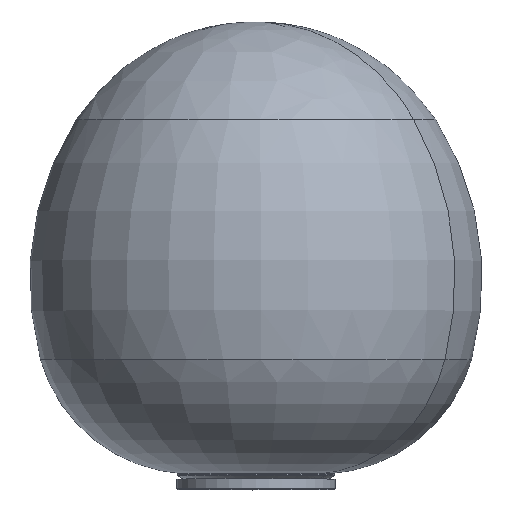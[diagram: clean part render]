
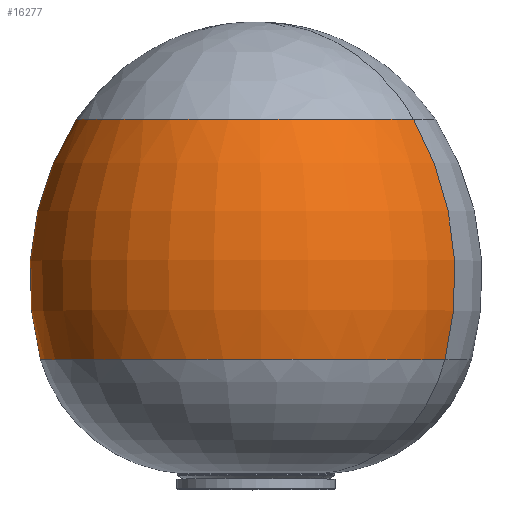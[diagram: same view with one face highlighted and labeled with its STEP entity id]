
A CAD part, top view. The second image highlights one B-rep face of the part: STEP entity #16277.
In plain terms, the highlighted toroidal (fillet/blend) face has major radius 56.856 mm and minor radius 256.574 mm.
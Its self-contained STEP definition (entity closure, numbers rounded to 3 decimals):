
#3747 = ORIENTED_EDGE ( 'NONE', *, *, #110266, .T. ) ;
#3772 = DIRECTION ( 'NONE',  ( 0.481, 0., -0.877 ) ) ;
#3905 = AXIS2_PLACEMENT_3D ( 'NONE', #54396, #79560, #72660 ) ;
#3950 = DIRECTION ( 'NONE',  ( 0., -1., 0. ) ) ;
#7322 = EDGE_CURVE ( 'NONE', #99558, #81390, #106076, .T. ) ;
#7569 = CIRCLE ( 'NONE', #3905, 158.06 ) ;
#12868 = DIRECTION ( 'NONE',  ( 0.877, 0., 0.481 ) ) ;
#13258 = CARTESIAN_POINT ( 'NONE',  ( 21.67, 126.78, 148.965 ) ) ;
#16277 = ADVANCED_FACE ( 'NONE', ( #55334 ), #69257, .T. ) ;
#18971 = EDGE_LOOP ( 'NONE', ( #3747, #94566, #79449, #84927 ) ) ;
#21693 = CARTESIAN_POINT ( 'NONE',  ( -283.119, 338.323, -18.249 ) ) ;
#22070 = EDGE_CURVE ( 'NONE', #110682, #53507, #98350, .T. ) ;
#29385 = AXIS2_PLACEMENT_3D ( 'NONE', #109464, #3772, #83748 ) ;
#31335 = DIRECTION ( 'NONE',  ( 0.877, 0., 0.481 ) ) ;
#44350 = DIRECTION ( 'NONE',  ( 0.877, 0., 0.481 ) ) ;
#46671 = CIRCLE ( 'NONE', #90228, 189.585 ) ;
#48404 = CARTESIAN_POINT ( 'NONE',  ( -5.968, 338.323, 133.802 ) ) ;
#53292 = EDGE_CURVE ( 'NONE', #81390, #53507, #46671, .T. ) ;
#53507 = VERTEX_POINT ( 'NONE', #70452 ) ;
#54396 = CARTESIAN_POINT ( 'NONE',  ( -144.544, 338.323, 57.776 ) ) ;
#55334 = FACE_OUTER_BOUND ( 'NONE', #18971, .T. ) ;
#56460 = AXIS2_PLACEMENT_3D ( 'NONE', #107392, #3950, #31335 ) ;
#58224 = AXIS2_PLACEMENT_3D ( 'NONE', #79780, #96375, #44350 ) ;
#69257 = TOROIDAL_SURFACE ( 'NONE', #56460, -56.856, 256.574 ) ;
#70452 = CARTESIAN_POINT ( 'NONE',  ( -310.758, 126.78, -33.412 ) ) ;
#72660 = DIRECTION ( 'NONE',  ( 0.877, 0., 0.481 ) ) ;
#79449 = ORIENTED_EDGE ( 'NONE', *, *, #53292, .F. ) ;
#79560 = DIRECTION ( 'NONE',  ( 0., -1., 0. ) ) ;
#79780 = CARTESIAN_POINT ( 'NONE',  ( -94.697, 198.175, 85.123 ) ) ;
#81390 = VERTEX_POINT ( 'NONE', #13258 ) ;
#83748 = DIRECTION ( 'NONE',  ( -0.877, 0., -0.481 ) ) ;
#84927 = ORIENTED_EDGE ( 'NONE', *, *, #7322, .F. ) ;
#88854 = DIRECTION ( 'NONE',  ( 0., -1., 0. ) ) ;
#90228 = AXIS2_PLACEMENT_3D ( 'NONE', #97444, #88854, #12868 ) ;
#94566 = ORIENTED_EDGE ( 'NONE', *, *, #22070, .T. ) ;
#96375 = DIRECTION ( 'NONE',  ( -0.481, 0., 0.877 ) ) ;
#97444 = CARTESIAN_POINT ( 'NONE',  ( -144.544, 126.78, 57.776 ) ) ;
#98350 = CIRCLE ( 'NONE', #58224, 256.574 ) ;
#99558 = VERTEX_POINT ( 'NONE', #48404 ) ;
#106076 = CIRCLE ( 'NONE', #29385, 256.574 ) ;
#107392 = CARTESIAN_POINT ( 'NONE',  ( -144.544, 198.175, 57.776 ) ) ;
#109464 = CARTESIAN_POINT ( 'NONE',  ( -194.391, 198.175, 30.429 ) ) ;
#110266 = EDGE_CURVE ( 'NONE', #99558, #110682, #7569, .T. ) ;
#110682 = VERTEX_POINT ( 'NONE', #21693 ) ;
